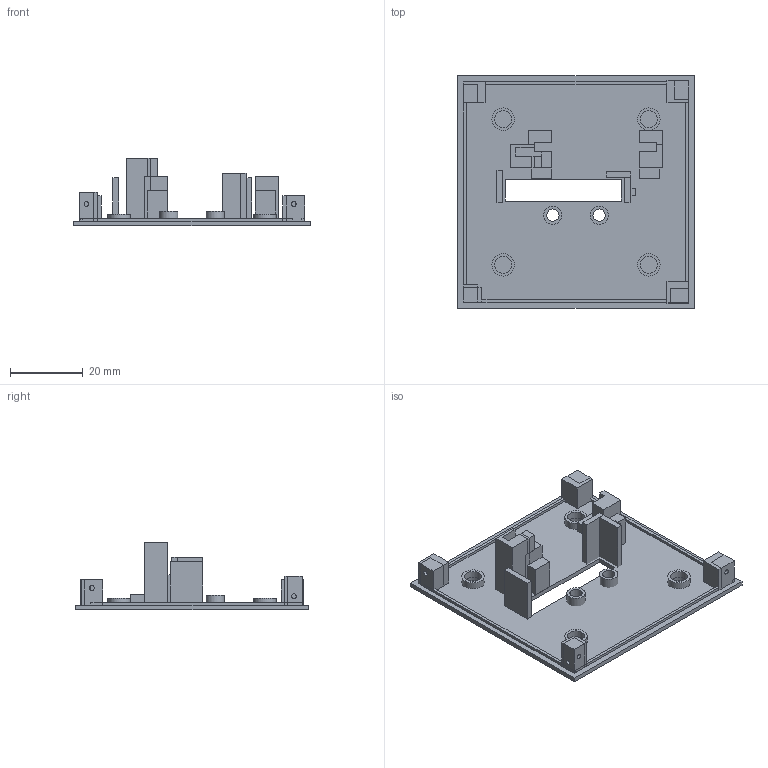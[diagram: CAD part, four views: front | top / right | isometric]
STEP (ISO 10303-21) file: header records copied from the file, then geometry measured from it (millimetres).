
FILE_DESCRIPTION(('FreeCAD Model'),'2;1');
FILE_NAME('/Users/alberto/Desktop/Dtto v2.0.1 STEP/005-1.step', '2017-05-29T11:43:03',('Author'),(''), 'Open CASCADE STEP processor 6.8','FreeCAD','Unknown');
FILE_SCHEMA(('AUTOMOTIVE_DESIGN_CC2 { 1 2 10303 214 -1 1 5 4 }'));
Length unit declared in the file: millimetre
Products named in the file (22): ASSEMBLY; Cut234; Clone_of_SoportLED002; Clone_of_SoportLED001; Cut177; Cubo326; Cubo325; Cubo324; Cubo323; Cut062; Cut061; Cut059; Cut058; Cubo304; Cubo303; Cubo302; Cubo300; Soporte_Servo_original; Clone_of_Clone_of_Cut008; Clone_of_Clone_of_Cut007; Clone_of_Clone_of_Cut006; Clone_of_Cut006
Assembly tree (21 placements, depth 2):
  ASSEMBLY
    Cut234
    Clone_of_SoportLED002
    Clone_of_SoportLED001
    Cut177
    Cubo326
    Cubo325
    Cubo324
    Cubo323
    Cut062
    Cut061
    Cut059
    Cut058
    Cubo304
    Cubo303
    Cubo302
    Cubo300
    Soporte_Servo_original
    Clone_of_Clone_of_Cut008
    Clone_of_Clone_of_Cut007
    Clone_of_Clone_of_Cut006
    Clone_of_Cut006
Bounding box: 65 x 64 x 18.6 mm (x, y, z)
Volume: 8554.8 mm3; surface area: 13488.8 mm2
Topology: 22 solids, 22 shells, 221 faces, 472 edges, 303 vertices
Faces by surface type: plane 193, cylinder 28
Full cylindrical faces by diameter (mm): 1.3 x8, 1.8 x2, 3.4 x4, 4.6 x8, 5 x2, 6.2 x4
Entity records: 12617 total; most frequent: CARTESIAN_POINT 2170, DIRECTION 1875, LINE 1200, VECTOR 1200, ORIENTED_EDGE 944, PCURVE 944, DEFINITIONAL_REPRESENTATION 944, EDGE_CURVE 472
